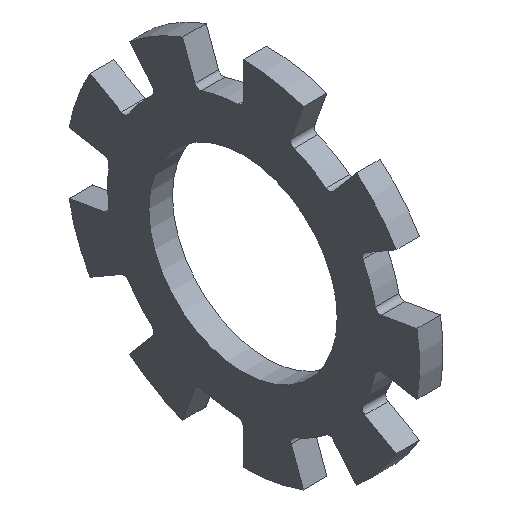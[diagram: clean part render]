
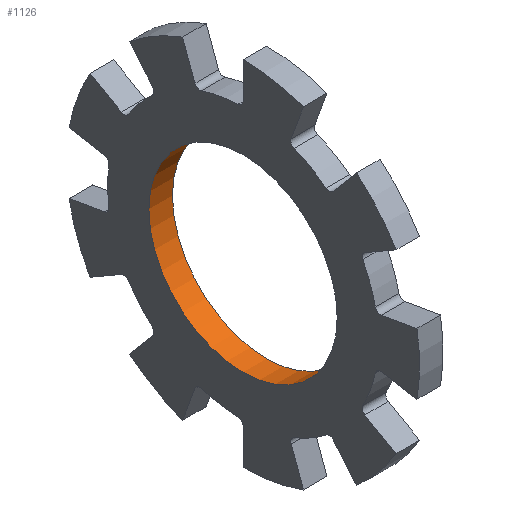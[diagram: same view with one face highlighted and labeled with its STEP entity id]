
A CAD part, isometric view. The second image highlights one B-rep face of the part: STEP entity #1126.
In plain terms, the highlighted cylindrical face has radius 1.6 mm (diameter 3.2 mm), a full revolution.
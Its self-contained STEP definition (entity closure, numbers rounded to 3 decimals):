
#108=FACE_OUTER_BOUND('',#166,.T.);
#166=EDGE_LOOP('',(#975,#976,#977,#978));
#259=LINE('',#1976,#350);
#350=VECTOR('',#1633,1.6);
#411=CIRCLE('',#1249,1.6);
#424=CIRCLE('',#1277,1.6);
#531=VERTEX_POINT('',#1932);
#538=VERTEX_POINT('',#1975);
#681=EDGE_CURVE('',#531,#531,#411,.T.);
#702=EDGE_CURVE('',#531,#538,#259,.T.);
#703=EDGE_CURVE('',#538,#538,#424,.T.);
#975=ORIENTED_EDGE('',*,*,#681,.F.);
#976=ORIENTED_EDGE('',*,*,#702,.T.);
#977=ORIENTED_EDGE('',*,*,#703,.F.);
#978=ORIENTED_EDGE('',*,*,#702,.F.);
#1070=CYLINDRICAL_SURFACE('',#1276,1.6);
#1126=ADVANCED_FACE('',(#108),#1070,.F.);
#1249=AXIS2_PLACEMENT_3D('',#1933,#1569,#1570);
#1276=AXIS2_PLACEMENT_3D('',#1974,#1631,#1632);
#1277=AXIS2_PLACEMENT_3D('',#1977,#1634,#1635);
#1569=DIRECTION('center_axis',(1.,0.,0.));
#1570=DIRECTION('ref_axis',(0.,-1.,0.));
#1631=DIRECTION('center_axis',(1.,0.,0.));
#1632=DIRECTION('ref_axis',(0.,-1.,0.));
#1633=DIRECTION('',(1.,0.,0.));
#1634=DIRECTION('center_axis',(-1.,0.,0.));
#1635=DIRECTION('ref_axis',(0.,-1.,0.));
#1932=CARTESIAN_POINT('',(0.,1.6,0.));
#1933=CARTESIAN_POINT('Origin',(0.,0.,0.));
#1974=CARTESIAN_POINT('Origin',(0.,0.,0.));
#1975=CARTESIAN_POINT('',(0.4,1.6,0.));
#1976=CARTESIAN_POINT('',(0.,1.6,0.));
#1977=CARTESIAN_POINT('Origin',(0.4,0.,0.));
